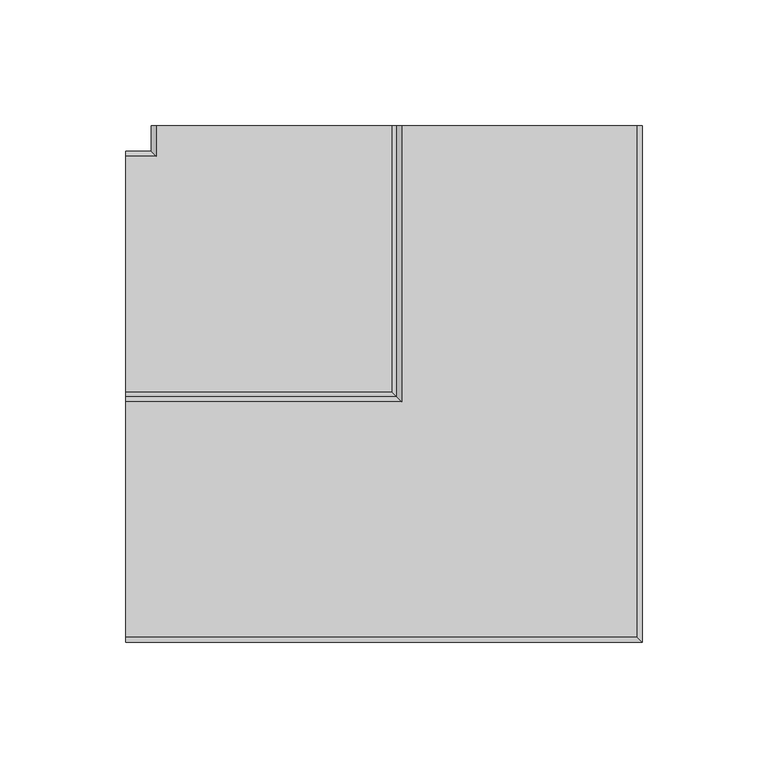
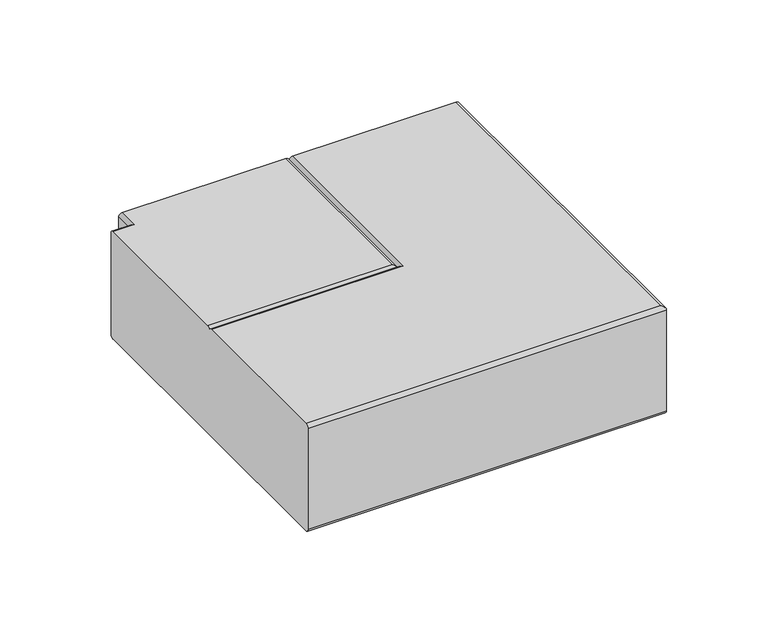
"""IFC4 building model written with IfcOpenShell, lengths in millimetres: duct fitting geometry, Угол плоский 90° - для кабель-каналов DLP - белый : 65х195мм."""

from ifc_helpers import new_model, si_unit, frame, origin, place, context, project, spatial, circle_curve, ellipse_curve, source, transform, mapped, element, save
from ifc_brep_helpers import plane_surface, cylinder_surface, advanced_brep


def duct_fitting_024a02d0(model_context):
    return source(origin(), model_context, "Body", "AdvancedBrep", [
        advanced_brep(
        [(-2.0, 107.5, 29.5407457), (0.0, 107.5, 27.5407457), (2.0, 107.5, 29.5407457), (95.5, 107.5, 29.5407457), (97.5, 107.5, 27.5407457), (97.5, 107.5, -33.4592543), (95.5, 107.5, -35.4592543), (-95.5, 107.5, -35.4592543), (-97.5, 107.5, -33.4592543), (-97.5, 107.5, 27.5407457), (-95.5, 107.5, 29.5407457), (95.5, -95.5, 29.5407457), (97.5, -97.5, 27.5407457), (97.5, -97.5, -33.4592543), (95.5, -95.5, -35.4592543), (-107.5, -95.5, -35.4592543), (-107.5, 95.5, -35.4592543), (-95.5, 95.5, -35.4592543), (-97.5, 97.5, -33.4592543), (-97.5, 97.5, 27.5407457), (-95.5, 95.5, 29.5407457), (-107.5, 95.5, 29.5407457), (-107.5, 2.0, 29.5407457), (-2.0, 2.0, 29.5407457), (-107.5, 97.5, 27.5407457), (-107.5, 97.5, -33.4592543), (-107.5, -97.5, -33.4592543), (-107.5, -97.5, 27.5407457), (-107.5, -95.5, 29.5407457), (-107.5, -2.0, 29.5407457), (-107.5, 0.0, 27.5407457), (0.0, 0.0, 27.5407457), (2.0, -2.0, 29.5407457)],
        [
            (0, 1, circle_curve(frame((-2.0, 107.5, 27.5407457), z_axis=(0.0, 1.0, 0.0), x_axis=(1.0, 0.0, 0.0)), 2.0)),
            (1, 2, circle_curve(frame((2.0, 107.5, 27.5407457), z_axis=(0.0, 1.0, 0.0), x_axis=(1.0, 0.0, 0.0)), 2.0)),
            (2, 3),
            (3, 4, circle_curve(frame((95.5, 107.5, 27.5407457), z_axis=(0.0, 1.0, 0.0), x_axis=(1.0, 0.0, 0.0)), 2.0)),
            (4, 5),
            (5, 6, circle_curve(frame((95.5, 107.5, -33.4592543), z_axis=(0.0, 1.0, 0.0), x_axis=(1.0, 0.0, 0.0)), 2.0)),
            (6, 7),
            (7, 8, circle_curve(frame((-95.5, 107.5, -33.4592543), z_axis=(0.0, 1.0, 0.0), x_axis=(1.0, 0.0, 0.0)), 2.0)),
            (8, 9),
            (9, 10, circle_curve(frame((-95.5, 107.5, 27.5407457), z_axis=(0.0, 1.0, 0.0), x_axis=(1.0, 0.0, 0.0)), 2.0)),
            (10, 0),
            (3, 11),
            (11, 12, ellipse_curve(frame((95.5, -95.5, 27.5407457), z_axis=(0.7071067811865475, 0.7071067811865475, 0.0), x_axis=(-0.7071067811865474, 0.7071067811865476, 0.0)), 2.8284271, 2.0)),
            (12, 4),
            (12, 13),
            (13, 5),
            (13, 14, ellipse_curve(frame((95.5, -95.5, -33.4592543), z_axis=(0.7071067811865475, 0.7071067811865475, 0.0), x_axis=(-0.7071067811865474, 0.7071067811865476, 0.0)), 2.8284271, 2.0)),
            (14, 6),
            (14, 15),
            (15, 16),
            (16, 17),
            (17, 7),
            (17, 18, ellipse_curve(frame((-95.5, 95.5, -33.4592543), z_axis=(0.7071067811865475, 0.7071067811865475, 0.0), x_axis=(-0.7071067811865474, 0.7071067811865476, 0.0)), 2.8284271, 2.0)),
            (18, 8),
            (18, 19),
            (19, 9),
            (19, 20, ellipse_curve(frame((-95.5, 95.5, 27.5407457), z_axis=(0.7071067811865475, 0.7071067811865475, 0.0), x_axis=(-0.7071067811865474, 0.7071067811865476, 0.0)), 2.8284271, 2.0)),
            (20, 10),
            (20, 21),
            (21, 22),
            (22, 23),
            (23, 0),
            (21, 24, circle_curve(frame((-107.5, 95.5, 27.5407457), z_axis=(-1.0, 0.0, 0.0), x_axis=(0.0, -1.0, 0.0)), 2.0)),
            (24, 25),
            (25, 16, circle_curve(frame((-107.5, 95.5, -33.4592543), z_axis=(-1.0, 0.0, 0.0), x_axis=(0.0, -1.0, 0.0)), 2.0)),
            (15, 26, circle_curve(frame((-107.5, -95.5, -33.4592543), z_axis=(-1.0, 0.0, 0.0), x_axis=(0.0, -1.0, 0.0)), 2.0)),
            (26, 27),
            (27, 28, circle_curve(frame((-107.5, -95.5, 27.5407457), z_axis=(-1.0, 0.0, 0.0), x_axis=(0.0, -1.0, 0.0)), 2.0)),
            (28, 29),
            (29, 30, circle_curve(frame((-107.5, -2.0, 27.5407457), z_axis=(-1.0, 0.0, 0.0), x_axis=(0.0, -1.0, 0.0)), 2.0)),
            (30, 22, circle_curve(frame((-107.5, 2.0, 27.5407457), z_axis=(-1.0, 0.0, 0.0), x_axis=(0.0, -1.0, 0.0)), 2.0)),
            (11, 28),
            (27, 12),
            (26, 13),
            (25, 18),
            (24, 19),
            (23, 31, ellipse_curve(frame((-2.0, 2.0, 27.5407457), z_axis=(0.7071067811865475, 0.7071067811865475, 0.0), x_axis=(-0.7071067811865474, 0.7071067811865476, 0.0)), 2.8284271, 2.0)),
            (31, 1),
            (31, 32, ellipse_curve(frame((2.0, -2.0, 27.5407457), z_axis=(0.7071067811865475, 0.7071067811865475, 0.0), x_axis=(-0.7071067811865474, 0.7071067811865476, 0.0)), 2.8284271, 2.0)),
            (32, 2),
            (32, 29),
            (30, 31),
        ],
        [
            plane_surface(frame((0.0, 107.5, -2.9592543), z_axis=(0.0, 1.0, 0.0), x_axis=(0.0, 0.0, 1.0))),
            cylinder_surface(frame((95.5, 107.5, 27.5407457), z_axis=(0.0, 1.0, 0.0), x_axis=(1.0, 0.0, 0.0)), 2.0),
            plane_surface(frame((97.5, 107.5, 27.5407457), z_axis=(1.0, 0.0, 0.0), x_axis=(0.0, -1.0, 0.0))),
            cylinder_surface(frame((95.5, 107.5, -33.4592543), z_axis=(0.0, 1.0, 0.0), x_axis=(1.0, 0.0, 0.0)), 2.0),
            plane_surface(frame((95.5, 107.5, -35.4592543), z_axis=(0.0, 0.0, -1.0), x_axis=(0.0, -1.0, 0.0))),
            cylinder_surface(frame((-95.5, 107.5, -33.4592543), z_axis=(0.0, 1.0, 0.0), x_axis=(1.0, 0.0, 0.0)), 2.0),
            plane_surface(frame((-97.5, 107.5, -33.4592543), z_axis=(-1.0, 0.0, 0.0), x_axis=(0.0, -1.0, 0.0))),
            cylinder_surface(frame((-95.5, 107.5, 27.5407457), z_axis=(0.0, 1.0, 0.0), x_axis=(1.0, 0.0, 0.0)), 2.0),
            plane_surface(frame((-95.5, 107.5, 29.5407457), z_axis=(0.0, 0.0, 1.0), x_axis=(0.0, -1.0, 0.0))),
            plane_surface(frame((-107.5, 0.0, -2.9592543), z_axis=(-1.0, 0.0, 0.0), x_axis=(0.0, 0.0, 1.0))),
            cylinder_surface(frame((0.0, -95.5, 27.5407457), z_axis=(1.0, 0.0, 0.0), x_axis=(0.0, -1.0, 0.0)), 2.0),
            plane_surface(frame((97.5, -97.5, 27.5407457), z_axis=(0.0, -1.0, 0.0), x_axis=(-1.0, 0.0, 0.0))),
            cylinder_surface(frame((0.0, -95.5, -33.4592543), z_axis=(1.0, 0.0, 0.0), x_axis=(0.0, -1.0, 0.0)), 2.0),
            cylinder_surface(frame((0.0, 95.5, -33.4592543), z_axis=(1.0, 0.0, 0.0), x_axis=(0.0, -1.0, 0.0)), 2.0),
            plane_surface(frame((-97.5, 97.5, -33.4592543), z_axis=(0.0, 1.0, 0.0), x_axis=(-1.0, 0.0, 0.0))),
            cylinder_surface(frame((0.0, 95.5, 27.5407457), z_axis=(1.0, 0.0, 0.0), x_axis=(0.0, -1.0, 0.0)), 2.0),
            cylinder_surface(frame((-2.0, 107.5, 27.5407457), z_axis=(0.0, 1.0, 0.0), x_axis=(1.0, 0.0, 0.0)), 2.0),
            cylinder_surface(frame((2.0, 107.5, 27.5407457), z_axis=(0.0, 1.0, 0.0), x_axis=(1.0, 0.0, 0.0)), 2.0),
            plane_surface(frame((2.0, 107.5, 29.5407457), z_axis=(0.0, 0.0, 1.0), x_axis=(0.0, -1.0, 0.0))),
            cylinder_surface(frame((0.0, 2.0, 27.5407457), z_axis=(1.0, 0.0, 0.0), x_axis=(0.0, -1.0, 0.0)), 2.0),
            cylinder_surface(frame((0.0, -2.0, 27.5407457), z_axis=(1.0, 0.0, 0.0), x_axis=(0.0, -1.0, 0.0)), 2.0),
        ],
        [
            (0, [[1, 2, 3, 4, 5, 6, 7, 8, 9, 10, 11]]),
            (1, [[-4, 12, 13, 14]]),
            (2, [[-5, -14, 15, 16]]),
            (3, [[-6, -16, 17, 18]]),
            (4, [[-7, -18, 19, 20, 21, 22]]),
            (5, [[-8, -22, 23, 24]]),
            (6, [[-9, -24, 25, 26]]),
            (7, [[-10, -26, 27, 28]]),
            (8, [[-11, -28, 29, 30, 31, 32]]),
            (9, [[-30, 33, 34, 35, -20, 36, 37, 38, 39, 40, 41]]),
            (10, [[-13, 42, -38, 43]]),
            (11, [[-15, -43, -37, 44]]),
            (12, [[-17, -44, -36, -19]]),
            (13, [[-23, -21, -35, 45]]),
            (14, [[-25, -45, -34, 46]]),
            (15, [[-27, -46, -33, -29]]),
            (16, [[-1, -32, 47, 48]]),
            (17, [[-2, -48, 49, 50]]),
            (18, [[-3, -50, 51, -39, -42, -12]]),
            (19, [[-47, -31, -41, 52]]),
            (20, [[-49, -52, -40, -51]]),
        ],
    ),
    ])


if __name__ == "__main__":
    model = new_model("IFC4")
    model_context = context("Model", 3, world=origin())
    ifc_project = project(units=[si_unit("LENGTHUNIT", "METRE", prefix="MILLI")], contexts=[model_context])
    site = spatial("IfcSite", under=ifc_project)
    building = spatial("IfcBuilding", under=site)
    placement = place(None, origin())
    duct_fitting_shape = duct_fitting_024a02d0(model_context)
    element("IfcDuctFitting", 1, ObjectType="Угол плоский 90° - для кабель-каналов DLP - белый : 65х195мм", at=placement, inside=building, context=model_context, shape_type="MappedRepresentation", body=[
        mapped(duct_fitting_shape, transform((0.0, 0.0, 0.0), x_axis=(1.0, 0.0, 0.0), y_axis=(0.0, 1.0, 0.0), z_axis=(0.0, 0.0, 1.0))),
    ])
    save(model, "model.ifc")
